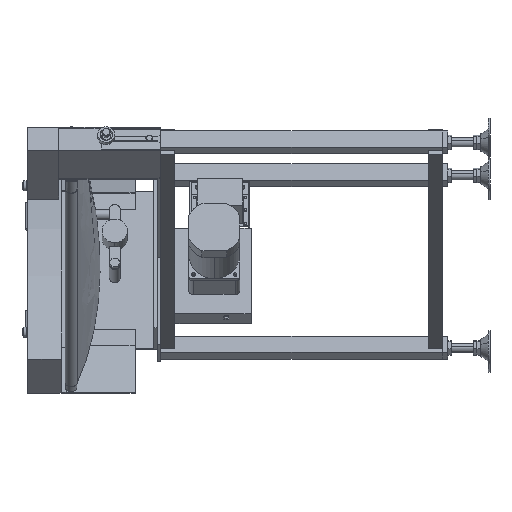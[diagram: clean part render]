
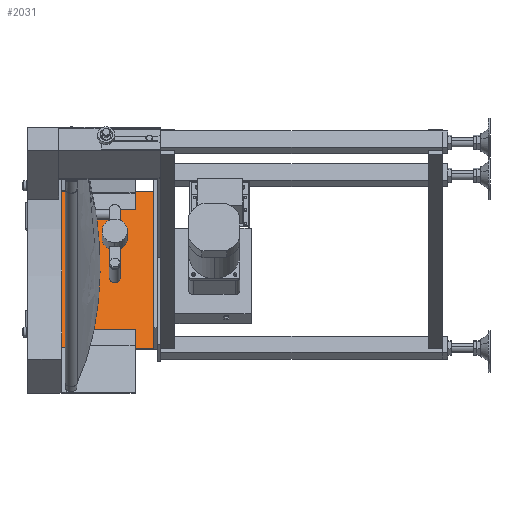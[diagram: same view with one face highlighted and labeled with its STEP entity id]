
A CAD part, left-side view. The second image highlights one B-rep face of the part: STEP entity #2031.
In plain terms, the highlighted planar face has unit normal (-0.924, 0, 0.383).
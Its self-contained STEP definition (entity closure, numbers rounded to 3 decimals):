
#2031=ADVANCED_FACE('',(#8455),#8454,.F.);
#8454=PLANE('',#17887);
#8455=FACE_OUTER_BOUND('',#17888,.T.);
#17884=CARTESIAN_POINT('',(547.607,-165.1,-400.009));
#17885=DIRECTION('',(0.924,0.,-0.383));
#17886=DIRECTION('',(0.,1.,0.));
#17887=AXIS2_PLACEMENT_3D('',#17884,#17885,#17886);
#17888=EDGE_LOOP('',(#23099,#23100,#23101,#23102));
#23099=ORIENTED_EDGE('',*,*,#26846,.T.);
#23100=ORIENTED_EDGE('',*,*,#26839,.F.);
#23101=ORIENTED_EDGE('',*,*,#26847,.F.);
#23102=ORIENTED_EDGE('',*,*,#26848,.T.);
#26839=EDGE_CURVE('',#37181,#37166,#37188,.T.);
#26846=EDGE_CURVE('',#37232,#37166,#37233,.T.);
#26847=EDGE_CURVE('',#37239,#37181,#37240,.T.);
#26848=EDGE_CURVE('',#37239,#37232,#37246,.T.);
#37166=VERTEX_POINT('',#51512);
#37181=VERTEX_POINT('',#51521);
#37188=LINE('',#51525,#51526);
#37232=VERTEX_POINT('',#51548);
#37233=LINE('',#51549,#51550);
#37239=VERTEX_POINT('',#51552);
#37240=LINE('',#51553,#51554);
#37246=LINE('',#51556,#51557);
#51512=CARTESIAN_POINT('',(551.434,-155.1,-390.77));
#51521=CARTESIAN_POINT('',(666.239,-155.1,-113.606));
#51525=CARTESIAN_POINT('',(666.239,-155.1,-113.606));
#51526=VECTOR('',#51527,300.);
#51527=DIRECTION('',(-0.383,0.,-0.924));
#51548=CARTESIAN_POINT('',(551.434,63.9,-390.77));
#51549=CARTESIAN_POINT('',(551.434,63.9,-390.77));
#51550=VECTOR('',#51551,219.);
#51551=DIRECTION('',(0.,-1.,0.));
#51552=CARTESIAN_POINT('',(666.239,63.9,-113.606));
#51553=CARTESIAN_POINT('',(666.239,63.9,-113.606));
#51554=VECTOR('',#51555,219.);
#51555=DIRECTION('',(0.,-1.,0.));
#51556=CARTESIAN_POINT('',(666.239,63.9,-113.606));
#51557=VECTOR('',#51558,300.);
#51558=DIRECTION('',(-0.383,0.,-0.924));
